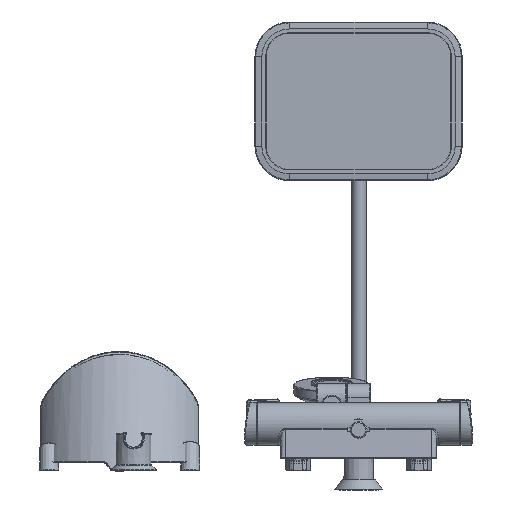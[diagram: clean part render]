
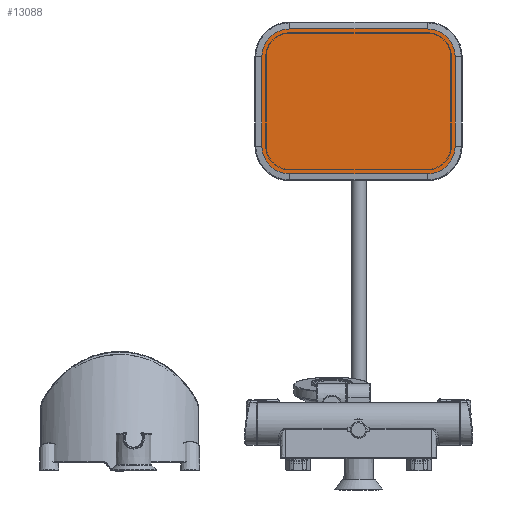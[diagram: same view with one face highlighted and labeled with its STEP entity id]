
A CAD part, front view. The second image highlights one B-rep face of the part: STEP entity #13088.
In plain terms, the highlighted planar face has unit normal (0, -1, 0).
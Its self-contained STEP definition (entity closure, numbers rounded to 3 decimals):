
#82 = ORIENTED_EDGE ( 'NONE', *, *, #28607, .T. ) ;
#395 = ORIENTED_EDGE ( 'NONE', *, *, #4143, .T. ) ;
#668 = CARTESIAN_POINT ( 'NONE',  ( 85.449, 1116.827, 368.524 ) ) ;
#1006 = EDGE_CURVE ( 'NONE', #18456, #40885, #16771, .T. ) ;
#1355 = VERTEX_POINT ( 'NONE', #7859 ) ;
#1904 = VECTOR ( 'NONE', #37154, 1000. ) ;
#1937 = LINE ( 'NONE', #11778, #1904 ) ;
#2704 = CARTESIAN_POINT ( 'NONE',  ( 85.449, 1116.827, 402.922 ) ) ;
#3833 = DIRECTION ( 'NONE',  ( 1., 0., 0. ) ) ;
#3885 = CIRCLE ( 'NONE', #32744, 34.398 ) ;
#4143 = EDGE_CURVE ( 'NONE', #4662, #35709, #11579, .T. ) ;
#4662 = VERTEX_POINT ( 'NONE', #17015 ) ;
#4825 = AXIS2_PLACEMENT_3D ( 'NONE', #12379, #34599, #15553 ) ;
#5868 = DIRECTION ( 'NONE',  ( 0., 0., -1. ) ) ;
#7859 = CARTESIAN_POINT ( 'NONE',  ( -119.949, 1116.827, 402.922 ) ) ;
#9815 = ORIENTED_EDGE ( 'NONE', *, *, #21587, .T. ) ;
#10535 = EDGE_CURVE ( 'NONE', #35709, #39169, #1937, .T. ) ;
#10765 = CARTESIAN_POINT ( 'NONE',  ( -119.949, 1116.827, 513.922 ) ) ;
#11139 = CARTESIAN_POINT ( 'NONE',  ( 85.449, 1116.827, 513.922 ) ) ;
#11368 = ORIENTED_EDGE ( 'NONE', *, *, #24831, .T. ) ;
#11579 = CIRCLE ( 'NONE', #22577, 34.398 ) ;
#11778 = CARTESIAN_POINT ( 'NONE',  ( 85.449, 1116.827, 548.32 ) ) ;
#11894 = VECTOR ( 'NONE', #16166, 1000. ) ;
#11973 = LINE ( 'NONE', #12978, #11894 ) ;
#12379 = CARTESIAN_POINT ( 'NONE',  ( -85.551, 1116.827, 513.922 ) ) ;
#12552 = VERTEX_POINT ( 'NONE', #22180 ) ;
#12978 = CARTESIAN_POINT ( 'NONE',  ( 119.846, 1116.827, 513.922 ) ) ;
#13088 = ADVANCED_FACE ( 'NONE', ( #38184 ), #20879, .F. ) ;
#14276 = DIRECTION ( 'NONE',  ( 0., 0., -1. ) ) ;
#14680 = DIRECTION ( 'NONE',  ( 0., 1., 0. ) ) ;
#15553 = DIRECTION ( 'NONE',  ( 0., 0., -1. ) ) ;
#16166 = DIRECTION ( 'NONE',  ( 0., 0., 1. ) ) ;
#16771 = CIRCLE ( 'NONE', #21236, 34.398 ) ;
#17015 = CARTESIAN_POINT ( 'NONE',  ( 119.846, 1116.827, 513.922 ) ) ;
#18194 = CIRCLE ( 'NONE', #4825, 34.398 ) ;
#18456 = VERTEX_POINT ( 'NONE', #25741 ) ;
#18527 = DIRECTION ( 'NONE',  ( 0., -1., 0. ) ) ;
#20613 = ORIENTED_EDGE ( 'NONE', *, *, #1006, .T. ) ;
#20879 = PLANE ( 'NONE',  #21975 ) ;
#21236 = AXIS2_PLACEMENT_3D ( 'NONE', #2704, #24649, #5868 ) ;
#21317 = ORIENTED_EDGE ( 'NONE', *, *, #36876, .T. ) ;
#21587 = EDGE_CURVE ( 'NONE', #12552, #1355, #23711, .T. ) ;
#21975 = AXIS2_PLACEMENT_3D ( 'NONE', #24061, #14680, #36902 ) ;
#22180 = CARTESIAN_POINT ( 'NONE',  ( -119.949, 1116.827, 513.922 ) ) ;
#22577 = AXIS2_PLACEMENT_3D ( 'NONE', #11139, #33333, #14276 ) ;
#22731 = CARTESIAN_POINT ( 'NONE',  ( 119.846, 1116.827, 402.922 ) ) ;
#23598 = VECTOR ( 'NONE', #36692, 1000. ) ;
#23711 = LINE ( 'NONE', #10765, #23598 ) ;
#24061 = CARTESIAN_POINT ( 'NONE',  ( 128.449, 1116.827, 362.945 ) ) ;
#24649 = DIRECTION ( 'NONE',  ( 0., -1., 0. ) ) ;
#24831 = EDGE_CURVE ( 'NONE', #39169, #12552, #18194, .T. ) ;
#25635 = CARTESIAN_POINT ( 'NONE',  ( -85.551, 1116.827, 368.524 ) ) ;
#25741 = CARTESIAN_POINT ( 'NONE',  ( 85.449, 1116.827, 368.524 ) ) ;
#27097 = EDGE_LOOP ( 'NONE', ( #82, #395, #31258, #11368, #9815, #31476, #21317, #20613 ) ) ;
#28607 = EDGE_CURVE ( 'NONE', #40885, #4662, #11973, .T. ) ;
#28858 = CARTESIAN_POINT ( 'NONE',  ( -85.551, 1116.827, 548.32 ) ) ;
#31258 = ORIENTED_EDGE ( 'NONE', *, *, #10535, .T. ) ;
#31476 = ORIENTED_EDGE ( 'NONE', *, *, #33652, .T. ) ;
#32744 = AXIS2_PLACEMENT_3D ( 'NONE', #37570, #18527, #40741 ) ;
#33333 = DIRECTION ( 'NONE',  ( 0., -1., 0. ) ) ;
#33652 = EDGE_CURVE ( 'NONE', #1355, #39132, #3885, .T. ) ;
#34599 = DIRECTION ( 'NONE',  ( 0., -1., 0. ) ) ;
#35579 = CARTESIAN_POINT ( 'NONE',  ( 85.449, 1116.827, 548.32 ) ) ;
#35709 = VERTEX_POINT ( 'NONE', #35579 ) ;
#36692 = DIRECTION ( 'NONE',  ( 0., 0., -1. ) ) ;
#36876 = EDGE_CURVE ( 'NONE', #39132, #18456, #39208, .T. ) ;
#36902 = DIRECTION ( 'NONE',  ( 0., 0., -1. ) ) ;
#37154 = DIRECTION ( 'NONE',  ( -1., 0., 0. ) ) ;
#37570 = CARTESIAN_POINT ( 'NONE',  ( -85.551, 1116.827, 402.922 ) ) ;
#38184 = FACE_OUTER_BOUND ( 'NONE', #27097, .T. ) ;
#39018 = VECTOR ( 'NONE', #3833, 1000. ) ;
#39132 = VERTEX_POINT ( 'NONE', #25635 ) ;
#39169 = VERTEX_POINT ( 'NONE', #28858 ) ;
#39208 = LINE ( 'NONE', #668, #39018 ) ;
#40741 = DIRECTION ( 'NONE',  ( 0., 0., -1. ) ) ;
#40885 = VERTEX_POINT ( 'NONE', #22731 ) ;
